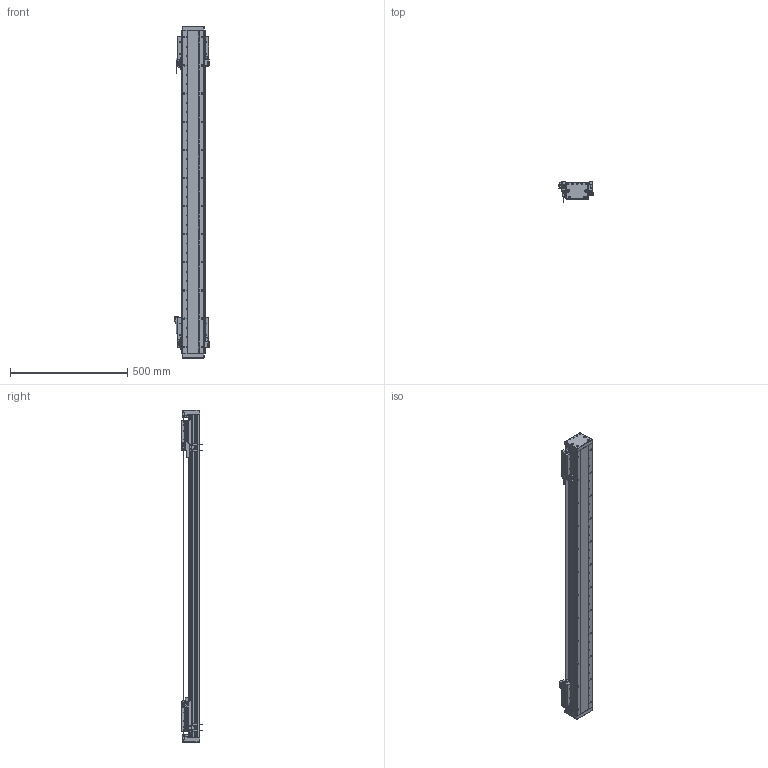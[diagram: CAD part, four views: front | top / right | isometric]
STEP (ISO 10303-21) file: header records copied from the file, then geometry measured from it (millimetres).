
FILE_DESCRIPTION (( 'STEP AP203' ), '1' );
FILE_NAME ('DA-B95-2-B15-T1040-C010-0.2 直线电机.STEP', '2023-05-06T06:28:49', ( '微软用户' ), ( '微软中国' ), 'SwSTEP 2.0', 'SolidWorks 2019', '' );
FILE_SCHEMA (( 'CONFIG_CONTROL_DESIGN' ));
Length unit declared in the file: millimetre
Products named in the file (34): DA-B95-2-B15-T1040-C010-0.2 眻盄萇儂; 66245-BU95-V 幗紩賑怢; IU-BU95-L 菁釱絳寢; DA95-HXJ-00 缓冲橡胶^DA-A95-B15-T-C010-0.2-N 直线电机; 葩璃 DA95-GT-T-00^IU-BU95-L 菁釱絳寢_DA95; 复件 复件 18252-0001-004-00 钢带端盖^DA-A95-B15-T-C010-0.2-N 直线电机; 66245-BU95-V-00 珨极趙賑雄怢啣; 复件 DA95-B15-YB-A-00 压板A^66245-BU95-V 滚珠滑台; 复件 DKW-HXJ-JY-00 缓冲橡胶^DA-A95-B15-T-C010-0.2-N 直线电机; 复件 66245-BU95-HT-V-01 滑动台板^66245-BU95-V-00 一体化滑动台板; 葩璃 DA95-B15-DP-A-00 菜えA^66245-BU95-V 幗紩賑怢; 复件 复件 18252-0001-003-00 钢带拉块^DA-A95-B15-T-C010-0.2-N 直线电机; 复件 纯铜油杯 6x6mm^66245-BU95-V 滚珠滑台; B15 XD-U-02L ｴﾅﾕ､ｳﾟ^DA-A95-B15-T-C010-0.2-N ﾖｱﾏﾟｵ扈銈XD-U-02L; 复件 DA95-HK-GT-00 滑块钢轨^66245-BU95-V-00 一体化滑动台板; 葩璃 PM-Y45^DA-A95-B15-T-C010-0.2-N 眻盄萇儂; 葩璃 BKMA01-W060-TRL^DA-A95-B15-T-C010-0.2-N 眻盄萇儂; 复件 DA95-B15-YB-B-00 压板B^66245-BU95-V 滚珠滑台; 复件 DA95-DB-00  挡板^66245-BU95-V 滚珠滑台; 复件 DKW-KGZ-ZJ-00 中间光电开关支架^DA-A95-B15-T-C010-0.2-N 直线电机; 复件 DA95-DK-00 挡块^66245-BU95-V 滚珠滑台; DA-A95-GYP-00 光电感应片^DA-A95-B15-T-C010-0.2-N 直线电机; 复件 六角薄螺母 M3^DA-A95-B15-T-C010-0.2-N 直线电机_GB_FASTENER_NUT_STNAB M3-C; 葩璃 BKM015-W060-C1-TP-DA-0.2^DA-A95-B15-T-C010-0.2-N 眻盄萇儂; 复件 DA95-MFP-01 密封片^66245-BU95-V 滚珠滑台; IU-BU95-L-00 菁釱_L1380; 复件 DA95-B15 钢带盖板^DA-A95-B15-T-C010-0.2-N 直线电机; 复件 复件 18252-0001-002-00 钢带垫块^DA-A95-B15-T-C010-0.2-N 直线电机; 葩璃 DA95-B15-DP--B-00 菜えB^66245-BU95-V 幗紩賑怢; 复件 DKW-GYP-ZJ-00 中间光电感应片^DA-A95-B15-T-C010-0.2-N 直线电机; PM-T45 光电开关^DA-A95-B15-T-C010-0.2-N 直线电机; LMDK-2-R001-V5-L02-C1-F00，0.2M 读数头^DA-A95-B15-T-C010-0.2-N 直线电机_DMA-010-0.2
Assembly tree (80 placements, depth 4):
  DA-B95-2-B15-T1040-C010-0.2 眻盄萇儂
    IU-BU95-L 菁釱絳寢
      IU-BU95-L-00 菁釱_L1380
      葩璃 DA95-GT-T-00^IU-BU95-L 菁釱絳寢_DA95  x2
    66245-BU95-V 幗紩賑怢
      66245-BU95-V-00 珨极趙賑雄怢啣
        复件 66245-BU95-HT-V-01 滑动台板^66245-BU95-V-00 一体化滑动台板
        复件 DA95-HK-GT-00 滑块钢轨^66245-BU95-V-00 一体化滑动台板  x2
      葩璃 DA95-B15-DP-A-00 菜えA^66245-BU95-V 幗紩賑怢
      复件 DA95-B15-YB-A-00 压板A^66245-BU95-V 滚珠滑台
      复件 DA95-B15-YB-B-00 压板B^66245-BU95-V 滚珠滑台
      复件 DA95-DB-00  挡板^66245-BU95-V 滚珠滑台  x4
      复件 DA95-DK-00 挡块^66245-BU95-V 滚珠滑台  x2
      复件 DA95-MFP-01 密封片^66245-BU95-V 滚珠滑台  x4
      复件 纯铜油杯 6x6mm^66245-BU95-V 滚珠滑台  x2
      葩璃 DA95-B15-DP--B-00 菜えB^66245-BU95-V 幗紩賑怢
    66245-BU95-V 幗紩賑怢
      66245-BU95-V-00 珨极趙賑雄怢啣
        复件 66245-BU95-HT-V-01 滑动台板^66245-BU95-V-00 一体化滑动台板
        复件 DA95-HK-GT-00 滑块钢轨^66245-BU95-V-00 一体化滑动台板  x2
      葩璃 DA95-B15-DP-A-00 菜えA^66245-BU95-V 幗紩賑怢
      复件 DA95-B15-YB-A-00 压板A^66245-BU95-V 滚珠滑台
      复件 DA95-B15-YB-B-00 压板B^66245-BU95-V 滚珠滑台
      复件 DA95-DB-00  挡板^66245-BU95-V 滚珠滑台  x4
      复件 DA95-DK-00 挡块^66245-BU95-V 滚珠滑台  x2
      复件 DA95-MFP-01 密封片^66245-BU95-V 滚珠滑台  x4
      复件 纯铜油杯 6x6mm^66245-BU95-V 滚珠滑台  x2
      葩璃 DA95-B15-DP--B-00 菜えB^66245-BU95-V 幗紩賑怢
    DA-A95-GYP-00 光电感应片^DA-A95-B15-T-C010-0.2-N 直线电机  x2
    LMDK-2-R001-V5-L02-C1-F00，0.2M 读数头^DA-A95-B15-T-C010-0.2-N 直线电机_DMA-010-0.2  x2
    复件 DKW-KGZ-ZJ-00 中间光电开关支架^DA-A95-B15-T-C010-0.2-N 直线电机
    葩璃 PM-Y45^DA-A95-B15-T-C010-0.2-N 眻盄萇儂
    复件 DKW-GYP-ZJ-00 中间光电感应片^DA-A95-B15-T-C010-0.2-N 直线电机
    葩璃 BKM015-W060-C1-TP-DA-0.2^DA-A95-B15-T-C010-0.2-N 眻盄萇儂  x2
    复件 DKW-HXJ-JY-00 缓冲橡胶^DA-A95-B15-T-C010-0.2-N 直线电机  x2
    PM-T45 光电开关^DA-A95-B15-T-C010-0.2-N 直线电机  x4
    B15 XD-U-02L ｴﾅﾕ､ｳﾟ^DA-A95-B15-T-C010-0.2-N ﾖｱﾏﾟｵ扈銈XD-U-02L
    复件 复件 18252-0001-003-00 钢带拉块^DA-A95-B15-T-C010-0.2-N 直线电机  x2
    复件 复件 18252-0001-002-00 钢带垫块^DA-A95-B15-T-C010-0.2-N 直线电机  x2
    复件 复件 18252-0001-004-00 钢带端盖^DA-A95-B15-T-C010-0.2-N 直线电机  x2
    复件 DA95-B15 钢带盖板^DA-A95-B15-T-C010-0.2-N 直线电机
    DA95-HXJ-00 缓冲橡胶^DA-A95-B15-T-C010-0.2-N 直线电机  x4
    葩璃 BKMA01-W060-TRL^DA-A95-B15-T-C010-0.2-N 眻盄萇儂
    复件 六角薄螺母 M3^DA-A95-B15-T-C010-0.2-N 直线电机_GB_FASTENER_NUT_STNAB M3-C  x6
Bounding box: 145.4 x 90.2 x 1416 mm (x, y, z)
Volume: 5164999.6 mm3; surface area: 1662101.8 mm2
Topology: 75 solids, 93 shells, 3716 faces, 10036 edges, 6303 vertices
Faces by surface type: cylinder 1781, plane 1403, cone 464, torus 64, sphere 4
Entity records: 77746 total; most frequent: CARTESIAN_POINT 18284, DIRECTION 11518, ORIENTED_EDGE 11430, EDGE_CURVE 5715, AXIS2_PLACEMENT_3D 4329, VERTEX_POINT 3705, VECTOR 2860, LINE 2860
